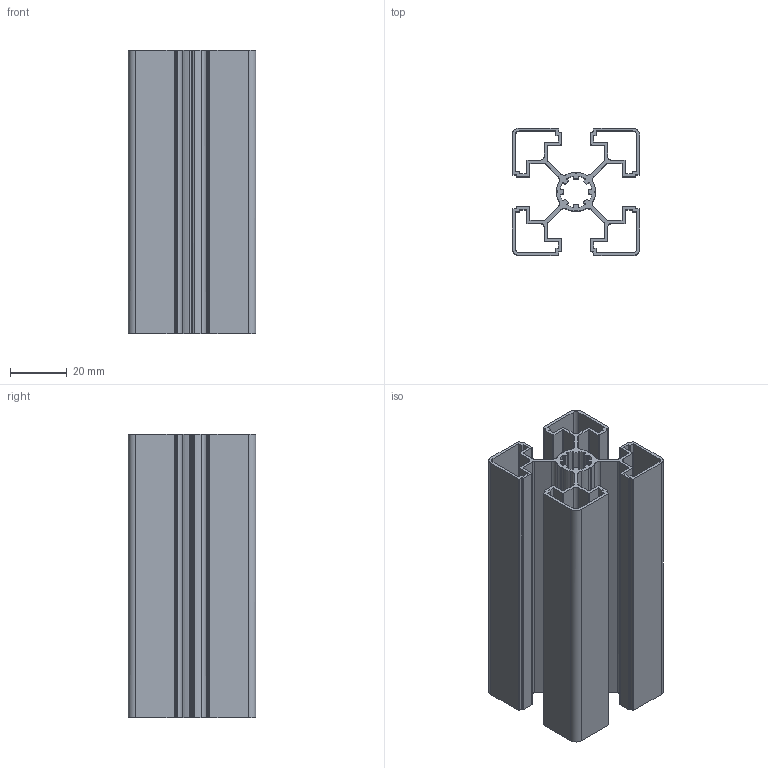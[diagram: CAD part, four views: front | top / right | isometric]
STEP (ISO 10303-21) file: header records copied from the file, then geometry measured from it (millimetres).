
FILE_DESCRIPTION (( 'STEP AP203' ), '1' );
FILE_NAME ('45x45 Super Light Sigma Profile.STEP', '2022-01-31T16:16:41', ( '' ), ( '' ), 'SwSTEP 2.0', 'SolidWorks 2018', '' );
FILE_SCHEMA (( 'CONFIG_CONTROL_DESIGN' ));
Length unit declared in the file: millimetre
Products named in the file (1): 45x45 Super Light Sigma Profile
Bounding box: 45 x 45 x 100 mm (x, y, z)
Volume: 37851.8 mm3; surface area: 65123.5 mm2
Topology: 1 solids, 1 shells, 277 faces, 825 edges, 550 vertices
Faces by surface type: bspline 277
Entity records: 9508 total; most frequent: CARTESIAN_POINT 4771, ORIENTED_EDGE 1650, EDGE_CURVE 825, B_SPLINE_CURVE_WITH_KNOTS 655, VERTEX_POINT 550, EDGE_LOOP 287, FACE_OUTER_BOUND 277, ADVANCED_FACE 277
